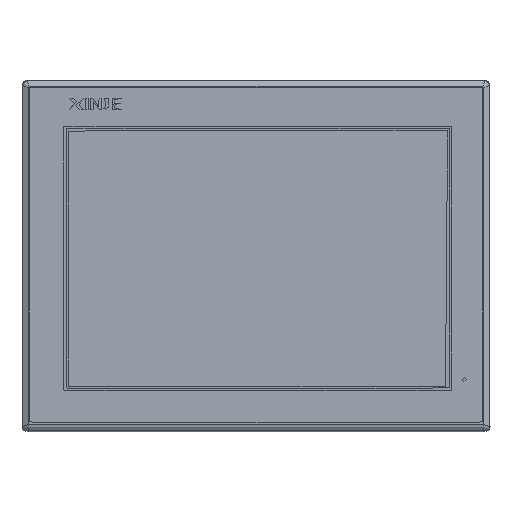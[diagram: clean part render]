
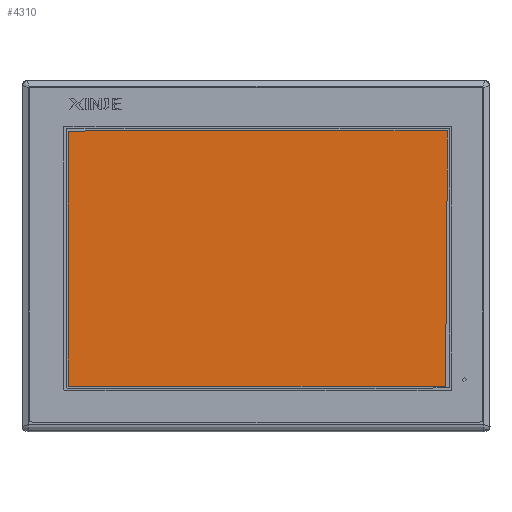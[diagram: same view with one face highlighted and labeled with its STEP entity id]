
A CAD part, top view. The second image highlights one B-rep face of the part: STEP entity #4310.
In plain terms, the highlighted planar face has unit normal (0, 0, 1).
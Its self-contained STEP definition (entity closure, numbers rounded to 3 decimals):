
#4310=ADVANCED_FACE('',(#5449),#28975,.T.);
#5449=FACE_OUTER_BOUND('',#6623,.T.);
#6623=EDGE_LOOP('',(#12186));
#12186=ORIENTED_EDGE('',*,*,#17441,.T.);
#17441=EDGE_CURVE('',#27836,#27836,#22698,.T.);
#22698=B_SPLINE_CURVE_WITH_KNOTS('',1,(#75350,#75351,#75352,#75353,#75354),
 .UNSPECIFIED.,.T.,.F.,(2,1,1,1,2),(0.,462.047,809.291,1271.338,1618.582),
 .UNSPECIFIED.);
#27836=VERTEX_POINT('',#75349);
#28975=PLANE('',#29475);
#29475=AXIS2_PLACEMENT_3D('',#75348,#29960,$);
#29960=DIRECTION('',(0.,0.,1.));
#75348=CARTESIAN_POINT('',(22.547,22.215,0.637));
#75349=CARTESIAN_POINT('',(22.547,22.215,0.637));
#75350=CARTESIAN_POINT('',(22.547,22.215,0.637));
#75351=CARTESIAN_POINT('',(204.167,22.215,0.637));
#75352=CARTESIAN_POINT('',(204.167,144.715,0.637));
#75353=CARTESIAN_POINT('',(22.547,144.715,0.637));
#75354=CARTESIAN_POINT('',(22.547,22.215,0.637));
